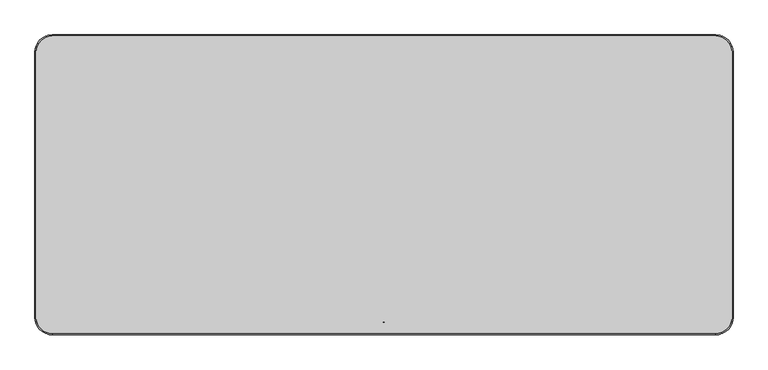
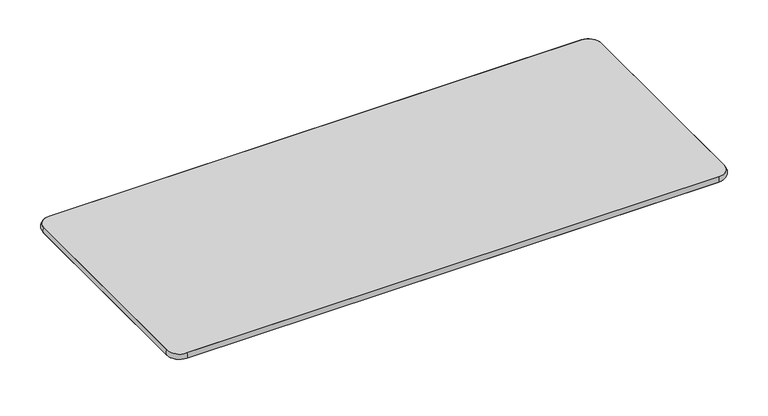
"""IFC4 building model written with IfcOpenShell, lengths in millimetres: furniture geometry, Mesa para refeitório : Mesa para refeitório 180x77cm cód 70475.6."""

from ifc_helpers import new_model, si_unit, point, frame, frame_2d, origin, place, context, project, spatial, polyline, circle_curve, ellipse_curve, trimmed, segment, composite_curve, outline, extrude, source, transform, mapped, element, save
from ifc_brep_helpers import plane_surface, cylinder_surface, revolved_surface, advanced_brep


def furniture_9fd08052(model_context):
    return source(origin(), model_context, "Body", "SolidModel", [
        extrude(outline(composite_curve([segment(polyline([(-805.6618953, -127.5875081), (-867.0206397, -341.5708799), (-879.5170418, -337.9875943)]), True, "CONTINUOUS"), segment(trimmed(circle_curve(frame_2d((-878.138855, -333.1812858)), 5.0), [point((-879.5170418, -337.9875943))], [point((-882.9451635, -331.803099))], False, "CARTESIAN"), True, "CONTINUOUS"), segment(polyline([(-882.9451635, -331.803099), (-824.3872851, -127.5875081), (-805.6618953, -127.5875081)]), True, "CONTINUOUS")], self_intersect=False)), frame((0.0, 0.0, 740.0), z_axis=(0.0, 0.0, 1.0), x_axis=(1.0, 0.0, 0.0)), (0.0, 0.0, 1.0), 2.0),
        extrude(outline(composite_curve([segment(polyline([(805.6618953, 127.5875081), (867.0206397, 341.5708799), (879.5170418, 337.9875943)]), True, "CONTINUOUS"), segment(trimmed(circle_curve(frame_2d((878.138855, 333.1812858)), 5.0), [point((879.5170418, 337.9875943))], [point((882.9451635, 331.803099))], False, "CARTESIAN"), True, "CONTINUOUS"), segment(polyline([(882.9451635, 331.803099), (824.3872851, 127.5875081), (805.6618953, 127.5875081)]), True, "CONTINUOUS")], self_intersect=False)), frame((0.0, 0.0, 740.0), z_axis=(0.0, 0.0, 1.0), x_axis=(1.0, 0.0, 0.0)), (0.0, 0.0, 1.0), 2.0),
        extrude(outline(composite_curve([segment(polyline([(805.6618953, -127.5875081), (824.3872851, -127.5875081), (882.9451635, -331.803099)]), True, "CONTINUOUS"), segment(trimmed(circle_curve(frame_2d((878.138855, -333.1812858)), 5.0), [point((882.9451635, -331.803099))], [point((879.5170418, -337.9875943))], False, "CARTESIAN"), True, "CONTINUOUS"), segment(polyline([(879.5170418, -337.9875943), (867.0206397, -341.5708799), (805.6618953, -127.5875081)]), True, "CONTINUOUS")], self_intersect=False)), frame((0.0, 0.0, 740.0), z_axis=(0.0, 0.0, 1.0), x_axis=(1.0, 0.0, 0.0)), (0.0, 0.0, 1.0), 2.0),
        extrude(outline(composite_curve([segment(polyline([(805.6618953, -42.5875081), (823.7270534, -42.5875081), (823.7270534, -140.8530223)]), True, "CONTINUOUS"), segment(trimmed(circle_curve(frame_2d((818.7270534, -140.8530223)), 5.0), [point((823.7270534, -140.8530223))], [point((818.7270534, -145.8530223))], False, "CARTESIAN"), True, "CONTINUOUS"), segment(polyline([(818.7270534, -145.8530223), (805.6618953, -145.8530223), (805.6618953, -42.5875081)]), True, "CONTINUOUS")], self_intersect=False)), frame((0.0, 0.0, 740.0), z_axis=(0.0, 0.0, 1.0), x_axis=(1.0, 0.0, 0.0)), (0.0, 0.0, 1.0), 2.0),
        extrude(outline(polyline([(-799.6955742, 28.681337), (-799.6955742, -28.681337), (-801.5529394, -28.1300623), (-801.5529394, 28.1300623), (-799.6955742, 28.681337)])), frame((0.0, 0.0, 682.0), z_axis=(0.0, 0.0, 1.0), x_axis=(1.0, 0.0, 0.0)), (0.0, 0.0, 1.0), 60.0),
        extrude(outline(composite_curve([segment(polyline([(-60.1181829, 0.0), (0.0, 0.0), (0.0, -229.4943371)]), True, "CONTINUOUS"), segment(trimmed(circle_curve(frame_2d((-8.0489664, -229.4943371)), 8.0489664), [point((0.0, -229.4943371))], [point((-15.3438074, -232.8959773))], False, "CARTESIAN"), True, "CONTINUOUS"), segment(polyline([(-15.3438074, -232.8959773), (-60.1181829, 0.0)]), True, "CONTINUOUS")], self_intersect=False)), frame((-799.6955742, -28.681337, 742.0), z_axis=(-0.961261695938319, 0.2756373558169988, 0.0), x_axis=(0.0, 0.0, 1.0)), (0.0, 0.0, 1.0), 1.932216),
        extrude(outline(composite_curve([segment(polyline([(60.1181829, 0.0), (15.3438074, -232.8959773)]), True, "CONTINUOUS"), segment(trimmed(circle_curve(frame_2d((8.0489664, -229.4943371)), 8.0489664), [point((15.3438074, -232.8959773))], [point((0.0, -229.4943371))], False, "CARTESIAN"), True, "CONTINUOUS"), segment(polyline([(0.0, -229.4943371), (0.0, 0.0), (60.1181829, 0.0)]), True, "CONTINUOUS")], self_intersect=False)), frame((801.5162894, 28.1300623, 742.0), z_axis=(-0.961261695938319, 0.2756373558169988, 0.0), x_axis=(0.0, 0.0, -1.0)), (0.0, 0.0, 1.0), 2.0),
        extrude(outline(polyline([(799.593766, 28.681337), (801.5162894, 28.1300623), (801.5162894, -28.1300623), (799.593766, -28.681337), (799.593766, 28.681337)])), frame((0.0, 0.0, 682.0), z_axis=(0.0, 0.0, 1.0), x_axis=(1.0, 0.0, 0.0)), (0.0, 0.0, 1.0), 60.0),
        extrude(outline(composite_curve([segment(polyline([(-2.0, -20.0), (-2.0, -351.247878), (-15.0, -351.247878)]), True, "CONTINUOUS"), segment(trimmed(circle_curve(frame_2d((-15.0, -346.247878)), 5.0), [point((-15.0, -351.247878))], [point((-20.0, -346.247878))], False, "CARTESIAN"), True, "CONTINUOUS"), segment(polyline([(-20.0, -346.247878), (-20.0, -20.0), (-2.0, -20.0)]), True, "CONTINUOUS")], self_intersect=False)), frame((0.0, 0.0, 740.0), z_axis=(0.0, 0.0, 1.0), x_axis=(1.0, 0.0, 0.0)), (0.0, 0.0, 1.0), 2.0),
        extrude(outline(composite_curve([segment(polyline([(-20.0, 683.2373612), (-351.247878, 726.6561926)]), True, "CONTINUOUS"), segment(trimmed(circle_curve(frame_2d((-347.8462378, 733.9510336)), 8.0489664), [point((-351.247878, 726.6561926))], [point((-347.8462378, 742.0))], False, "CARTESIAN"), True, "CONTINUOUS"), segment(polyline([(-347.8462378, 742.0), (-20.0, 742.0), (-20.0, 683.2373612)]), True, "CONTINUOUS")], self_intersect=False)), frame((-2.0, 0.0, 0.0), z_axis=(1.0, 0.0, 0.0), x_axis=(0.0, 1.0, 0.0)), (0.0, 0.0, 1.0), 2.0),
        extrude(outline(composite_curve([segment(polyline([(0.0, 0.0), (237.1608757, 0.0)]), True, "CONTINUOUS"), segment(trimmed(circle_curve(frame_2d((235.1976245, -7.8058636)), 8.0489664), [point((237.1608757, 0.0))], [point((236.7172151, -15.7100843))], False, "CARTESIAN"), True, "CONTINUOUS"), segment(polyline([(236.7172151, -15.7100843), (11.3499079, -59.0370689), (0.0, 0.0)]), True, "CONTINUOUS")], self_intersect=False)), frame((799.593766, -28.681337, 681.8818171), z_axis=(0.9612616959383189, 0.27563735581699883, 0.0), x_axis=(0.2706805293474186, -0.943975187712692, 0.1887932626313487)), (0.0, 0.0, 1.0), 2.0),
        extrude(outline(composite_curve([segment(polyline([(-2.0, 20.0), (-20.0, 20.0), (-20.0, 346.247878)]), True, "CONTINUOUS"), segment(trimmed(circle_curve(frame_2d((-15.0, 346.247878)), 5.0), [point((-20.0, 346.247878))], [point((-15.0, 351.247878))], False, "CARTESIAN"), True, "CONTINUOUS"), segment(polyline([(-15.0, 351.247878), (-2.0, 351.247878), (-2.0, 20.0)]), True, "CONTINUOUS")], self_intersect=False)), frame((0.0, 0.0, 740.0), z_axis=(0.0, 0.0, 1.0), x_axis=(1.0, 0.0, 0.0)), (0.0, 0.0, 1.0), 2.0),
        extrude(outline(composite_curve([segment(polyline([(20.0, 683.2373612), (20.0, 742.0), (347.8462378, 742.0)]), True, "CONTINUOUS"), segment(trimmed(circle_curve(frame_2d((347.8462378, 733.9510336)), 8.0489664), [point((347.8462378, 742.0))], [point((351.247878, 726.6561926))], False, "CARTESIAN"), True, "CONTINUOUS"), segment(polyline([(351.247878, 726.6561926), (20.0, 683.2373612)]), True, "CONTINUOUS")], self_intersect=False)), frame((-2.0, 0.0, 0.0), z_axis=(1.0, 0.0, 0.0), x_axis=(0.0, 1.0, 0.0)), (0.0, 0.0, 1.0), 2.0),
        extrude(outline(polyline([(800.0651581, -20.0), (-800.0651581, -20.0), (-800.0651581, 20.0), (800.0651581, 20.0), (800.0651581, -20.0)])), frame((0.0, 0.0, 682.0), z_axis=(0.0, 0.0, 1.0), x_axis=(1.0, 0.0, 0.0)), (0.0, 0.0, 1.0), 60.0),
        advanced_brep(
        [(900.0, -343.1259063, 760.0), (858.1259063, -385.0, 760.0), (858.1259063, -385.0, 742.0), (900.0, -343.1259063, 742.0), (900.0, 343.1259063, 742.0), (900.0, 343.1259063, 760.0), (858.1259063, 385.0, 760.0), (858.1259063, 385.0, 742.0), (-858.2277145, 385.0, 742.0), (-858.2277145, 385.0, 760.0), (-900.0, 343.2277145, 760.0), (-900.0, 343.2277145, 742.0), (-900.0, -343.2277145, 742.0), (-900.0, -343.2277145, 760.0), (-858.2277145, -385.0, 760.0), (-858.2277145, -385.0, 742.0)],
        [
            (0, 1, circle_curve(frame((858.1259063, -343.1259063, 760.0), z_axis=(0.0, 0.0, -1.0), x_axis=(0.0, -1.0, 0.0)), 41.8740937)),
            (1, 2, circle_curve(frame((858.1259063, -371.6032084, 751.0), z_axis=(1.0, 0.0, 0.0), x_axis=(0.0, 1.0, 0.0)), 16.1392077)),
            (2, 3, circle_curve(frame((858.1259063, -343.1259063, 742.0), z_axis=(0.0, 0.0, 1.0), x_axis=(0.0, -1.0, 0.0)), 41.8740937)),
            (3, 0, circle_curve(frame((886.6032084, -343.1259063, 751.0), z_axis=(0.0, -1.0, 0.0), x_axis=(-1.0, 0.0, 0.0)), 16.1392077)),
            (2, 1),
            (0, 3),
            (3, 4),
            (4, 5, circle_curve(frame((886.6032084, 343.1259063, 751.0), z_axis=(0.0, -1.0, 0.0), x_axis=(-1.0, 0.0, 0.0)), 16.1392077)),
            (5, 0),
            (5, 4),
            (6, 5, circle_curve(frame((858.1259063, 343.1259063, 760.0), z_axis=(0.0, 0.0, -1.0), x_axis=(1.0, 0.0, 0.0)), 41.8740937)),
            (4, 7, circle_curve(frame((858.1259063, 343.1259063, 742.0), z_axis=(0.0, 0.0, 1.0), x_axis=(1.0, 0.0, 0.0)), 41.8740937)),
            (7, 6, circle_curve(frame((858.1259063, 371.6032084, 751.0), z_axis=(1.0, 0.0, 0.0), x_axis=(0.0, -1.0, 0.0)), 16.1392077)),
            (6, 7),
            (7, 8),
            (8, 9, circle_curve(frame((-858.2277145, 371.6032084, 751.0), z_axis=(1.0, 0.0, 0.0), x_axis=(0.0, -1.0, 0.0)), 16.1392077)),
            (9, 6),
            (9, 8),
            (10, 9, circle_curve(frame((-858.2277145, 343.2277145, 760.0), z_axis=(0.0, 0.0, -1.0), x_axis=(0.0, 1.0, 0.0)), 41.7722855)),
            (8, 11, circle_curve(frame((-858.2277145, 343.2277145, 742.0), z_axis=(0.0, 0.0, 1.0), x_axis=(0.0, 1.0, 0.0)), 41.7722855)),
            (11, 10, circle_curve(frame((-886.6032084, 343.2277145, 751.0), z_axis=(0.0, 1.0, 0.0), x_axis=(1.0, 0.0, 0.0)), 16.1392077)),
            (10, 11),
            (11, 12),
            (12, 13, circle_curve(frame((-886.6032084, -343.2277145, 751.0), z_axis=(0.0, 1.0, 0.0), x_axis=(1.0, 0.0, 0.0)), 16.1392077)),
            (13, 10),
            (13, 12),
            (14, 13, circle_curve(frame((-858.2277145, -343.2277145, 760.0), z_axis=(0.0, 0.0, -1.0), x_axis=(-1.0, 0.0, 0.0)), 41.7722855)),
            (12, 15, circle_curve(frame((-858.2277145, -343.2277145, 742.0), z_axis=(0.0, 0.0, 1.0), x_axis=(-1.0, 0.0, 0.0)), 41.7722855)),
            (15, 14, circle_curve(frame((-858.2277145, -371.6032084, 751.0), z_axis=(-1.0, 0.0, 0.0), x_axis=(0.0, 1.0, 0.0)), 16.1392077)),
            (14, 15),
            (15, 2),
            (1, 14),
        ],
        [
            revolved_surface(trimmed(ellipse_curve(frame((858.1259063, -371.6032084, 751.0), z_axis=(-1.0, 0.0, 0.0), x_axis=(0.0, 1.0, 0.0)), 16.1392077, 16.1392077), [point((858.1259063, -385.0, 742.0))], [point((858.1259063, -385.0, 760.0))], True, "CARTESIAN"), (858.1259063, -343.1259063, 760.0), (0.0, 0.0, 1.0)),
            revolved_surface(polyline([(858.1259063, -385.0, 760.0), (858.1259063, -385.0, 742.0)]), (858.1259063, -343.1259063, 760.0), (0.0, 0.0, 1.0)),
            cylinder_surface(frame((886.6032084, -343.1259063, 751.0), z_axis=(0.0, -1.0, 0.0), x_axis=(-1.0, 0.0, 0.0)), 16.1392077),
            plane_surface(frame((900.0, -343.1259063, 760.0), z_axis=(-1.0, 0.0, 0.0), x_axis=(0.0, 1.0, 0.0))),
            revolved_surface(trimmed(ellipse_curve(frame((886.6032084, 343.1259063, 751.0), z_axis=(0.0, -1.0, 0.0), x_axis=(-1.0, 0.0, 0.0)), 16.1392077, 16.1392077), [point((900.0, 343.1259063, 742.0))], [point((900.0, 343.1259063, 760.0))], True, "CARTESIAN"), (858.1259063, 343.1259063, 760.0), (0.0, 0.0, 1.0)),
            revolved_surface(polyline([(900.0, 343.1259063, 760.0), (900.0, 343.1259063, 742.0)]), (858.1259063, 343.1259063, 760.0), (0.0, 0.0, 1.0)),
            cylinder_surface(frame((858.1259063, 371.6032084, 751.0), z_axis=(1.0, 0.0, 0.0), x_axis=(0.0, -1.0, 0.0)), 16.1392077),
            plane_surface(frame((858.1259063, 385.0, 760.0), z_axis=(0.0, -1.0, 0.0), x_axis=(-1.0, 0.0, 0.0))),
            revolved_surface(trimmed(ellipse_curve(frame((-858.2277145, 371.6032084, 751.0), z_axis=(1.0, 0.0, 0.0), x_axis=(0.0, -1.0, 0.0)), 16.1392077, 16.1392077), [point((-858.2277145, 385.0, 742.0))], [point((-858.2277145, 385.0, 760.0))], True, "CARTESIAN"), (-858.2277145, 343.2277145, 760.0), (0.0, 0.0, 1.0)),
            revolved_surface(polyline([(-858.2277145, 385.0, 760.0), (-858.2277145, 385.0, 742.0)]), (-858.2277145, 343.2277145, 760.0), (0.0, 0.0, 1.0)),
            cylinder_surface(frame((-886.6032084, 343.2277145, 751.0), z_axis=(0.0, 1.0, 0.0), x_axis=(1.0, 0.0, 0.0)), 16.1392077),
            plane_surface(frame((-900.0, 343.2277145, 760.0), z_axis=(1.0, 0.0, 0.0), x_axis=(0.0, -1.0, 0.0))),
            revolved_surface(trimmed(ellipse_curve(frame((-886.6032084, -343.2277145, 751.0), z_axis=(0.0, 1.0, 0.0), x_axis=(1.0, 0.0, 0.0)), 16.1392077, 16.1392077), [point((-900.0, -343.2277145, 742.0))], [point((-900.0, -343.2277145, 760.0))], True, "CARTESIAN"), (-858.2277145, -343.2277145, 760.0), (0.0, 0.0, 1.0)),
            revolved_surface(polyline([(-900.0, -343.2277145, 760.0), (-900.0, -343.2277145, 742.0)]), (-858.2277145, -343.2277145, 760.0), (0.0, 0.0, 1.0)),
            cylinder_surface(frame((-858.2277145, -371.6032084, 751.0), z_axis=(-1.0, 0.0, 0.0), x_axis=(0.0, 1.0, 0.0)), 16.1392077),
            plane_surface(frame((-858.2277145, -385.0, 760.0), z_axis=(0.0, 1.0, 0.0), x_axis=(1.0, 0.0, 0.0))),
        ],
        [
            (0, [[1, 2, 3, 4]]),
            (1, [[-3, 5, -1, 6]]),
            (2, [[-4, 7, 8, 9]]),
            (3, [[-6, -9, 10, -7]]),
            (4, [[11, -8, 12, 13]]),
            (5, [[-12, -10, -11, 14]]),
            (6, [[-13, 15, 16, 17]]),
            (7, [[-14, -17, 18, -15]]),
            (8, [[19, -16, 20, 21]]),
            (9, [[-20, -18, -19, 22]]),
            (10, [[-21, 23, 24, 25]]),
            (11, [[-22, -25, 26, -23]]),
            (12, [[27, -24, 28, 29]]),
            (13, [[-28, -26, -27, 30]]),
            (14, [[-29, 31, -2, 32]]),
            (15, [[-30, -32, -5, -31]]),
        ],
    ),
        extrude(outline(composite_curve([segment(trimmed(circle_curve(frame_2d((858.1259063, 343.1259063)), 41.8740937), [point((858.1259063, 385.0))], [point((900.0, 343.1259063))], False, "CARTESIAN"), True, "CONTINUOUS"), segment(polyline([(900.0, 343.1259063), (900.0, -343.1259063)]), True, "CONTINUOUS"), segment(trimmed(circle_curve(frame_2d((858.1259063, -343.1259063)), 41.8740937), [point((900.0, -343.1259063))], [point((858.1259063, -385.0))], False, "CARTESIAN"), True, "CONTINUOUS"), segment(polyline([(858.1259063, -385.0), (-858.2277145, -385.0)]), True, "CONTINUOUS"), segment(trimmed(circle_curve(frame_2d((-858.2277145, -343.2277145)), 41.7722855), [point((-858.2277145, -385.0))], [point((-900.0, -343.2277145))], False, "CARTESIAN"), True, "CONTINUOUS"), segment(polyline([(-900.0, -343.2277145), (-900.0, 343.2277145)]), True, "CONTINUOUS"), segment(trimmed(circle_curve(frame_2d((-858.2277145, 343.2277145)), 41.7722855), [point((-900.0, 343.2277145))], [point((-858.2277145, 385.0))], False, "CARTESIAN"), True, "CONTINUOUS"), segment(polyline([(-858.2277145, 385.0), (858.1259063, 385.0)]), True, "CONTINUOUS")], self_intersect=False)), frame((0.0, 0.0, 742.0), z_axis=(0.0, 0.0, 1.0), x_axis=(1.0, 0.0, 0.0)), (0.0, 0.0, 1.0), 18.0),
    ])


if __name__ == "__main__":
    model = new_model("IFC4")
    model_context = context("Model", 3, world=origin())
    ifc_project = project(units=[si_unit("LENGTHUNIT", "METRE", prefix="MILLI")], contexts=[model_context])
    site = spatial("IfcSite", under=ifc_project)
    building = spatial("IfcBuilding", under=site)
    placement = place(None, origin())
    furniture_shape = furniture_9fd08052(model_context)
    element("IfcFurniture", 1, ObjectType="Mesa para refeitório : Mesa para refeitório 180x77cm cód 70475.6", at=placement, inside=building, context=model_context, shape_type="MappedRepresentation", body=[
        mapped(furniture_shape, transform((0.0, 0.0, 0.0), x_axis=(1.0, 0.0, 0.0), y_axis=(0.0, 1.0, 0.0), z_axis=(0.0, 0.0, 1.0))),
    ])
    save(model, "model.ifc")
